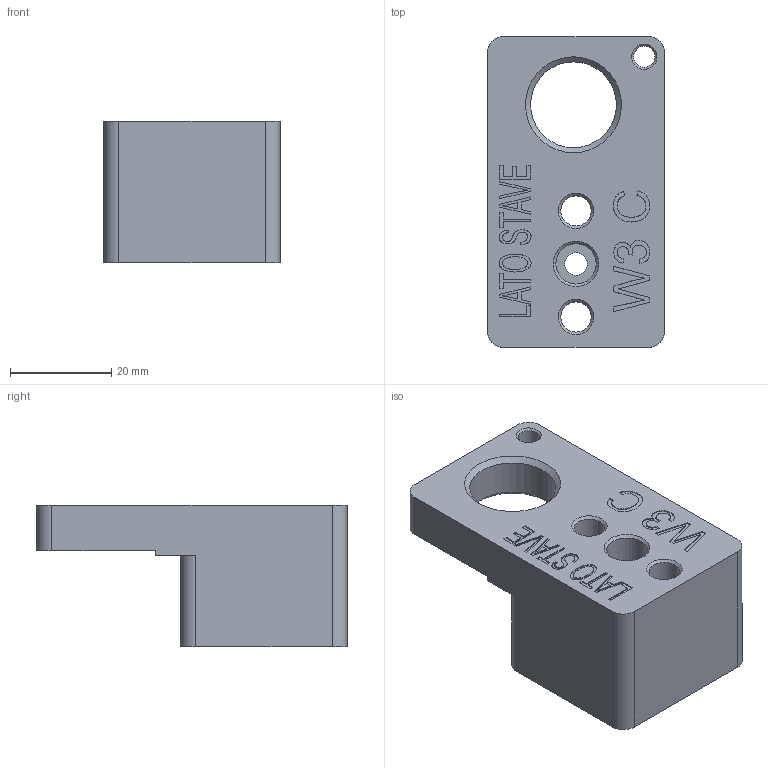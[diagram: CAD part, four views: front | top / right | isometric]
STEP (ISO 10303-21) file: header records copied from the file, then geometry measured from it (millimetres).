
FILE_DESCRIPTION(/* description */ (''),/* implementation_level */ '2;1');
FILE_NAME(/* name */ 'WHEELS-INSERT.20.stp',/* time_stamp */ '2018-05-25T14:25:28+02:00',/* author */ (''),/* organization */ (''),/* preprocessor_version */ 'ST-DEVELOPER v16.7',/* originating_system */ 'SIEMENS PLM Software NX 12.0',/* authorisation */ '');
FILE_SCHEMA (('AP203_CONFIGURATION_CONTROLLED_3D_DESIGN_OF_MECHANICAL_PARTS_AND_ASSEMBLIES_MIM_LF { 1 0 10303 403 2 1 2}'));
Length unit declared in the file: millimetre
Products named in the file (1): turc66A81BAD9zgf
Bounding box: 35 x 61.5 x 28 mm (x, y, z)
Volume: 36410 mm3; surface area: 10280.4 mm2
Topology: 1 solids, 1 shells, 151 faces, 390 edges, 257 vertices
Faces by surface type: plane 97, extrusion 26, cylinder 14, cone 14
Full cylindrical faces by diameter (mm): 4.2 x3, 4.5 x1, 6 x2, 8 x1, 17 x1
Entity records: 5349 total; most frequent: CARTESIAN_POINT 2013, ORIENTED_EDGE 722, DIRECTION 485, EDGE_CURVE 361, VERTEX_POINT 252, B_SPLINE_CURVE_WITH_KNOTS 220, EDGE_LOOP 199, AXIS2_PLACEMENT_3D 166
